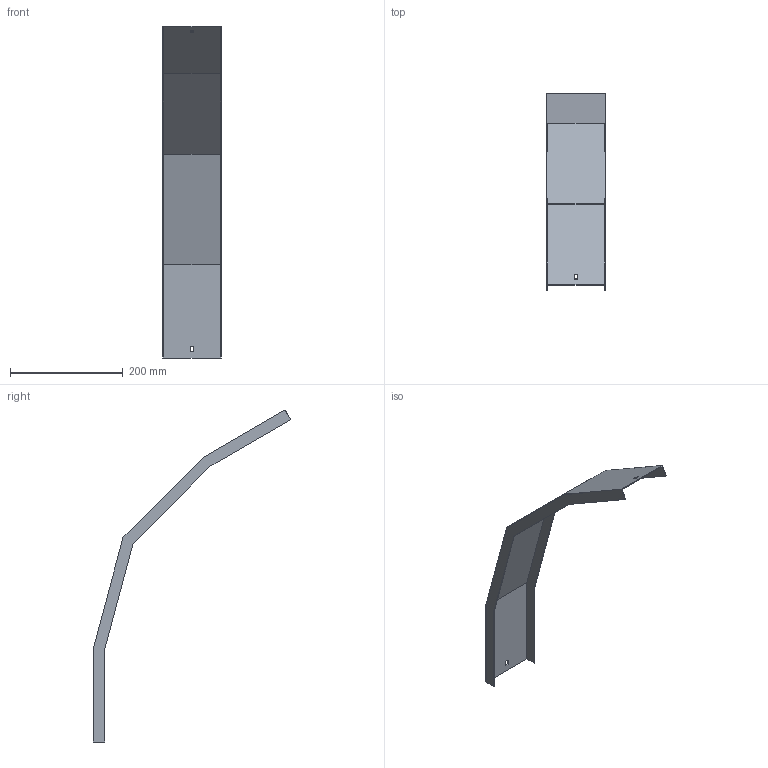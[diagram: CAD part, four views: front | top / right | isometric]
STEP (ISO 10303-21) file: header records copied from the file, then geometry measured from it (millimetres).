
FILE_DESCRIPTION (( 'STEP AP214' ), '1' );
FILE_NAME ('A2_41N3D100.step', '2025-02-21T10:39:52', ( '' ), ( '' ), 'SwSTEP 2.0', 'SolidWorks 2023', '' );
FILE_SCHEMA (( 'AUTOMOTIVE_DESIGN' ));
Length unit declared in the file: millimetre
Products named in the file (1): A2_41N3D100
Bounding box: 103 x 349.52 x 588.06 mm (x, y, z)
Volume: 153890 mm3; surface area: 207850.1 mm2
Topology: 1 solids, 1 shells, 30 faces, 84 edges, 56 vertices
Faces by surface type: plane 30
Entity records: 979 total; most frequent: CARTESIAN_POINT 171, ORIENTED_EDGE 168, DIRECTION 146, VECTOR 84, LINE 84, EDGE_CURVE 84, VERTEX_POINT 56, EDGE_LOOP 34
